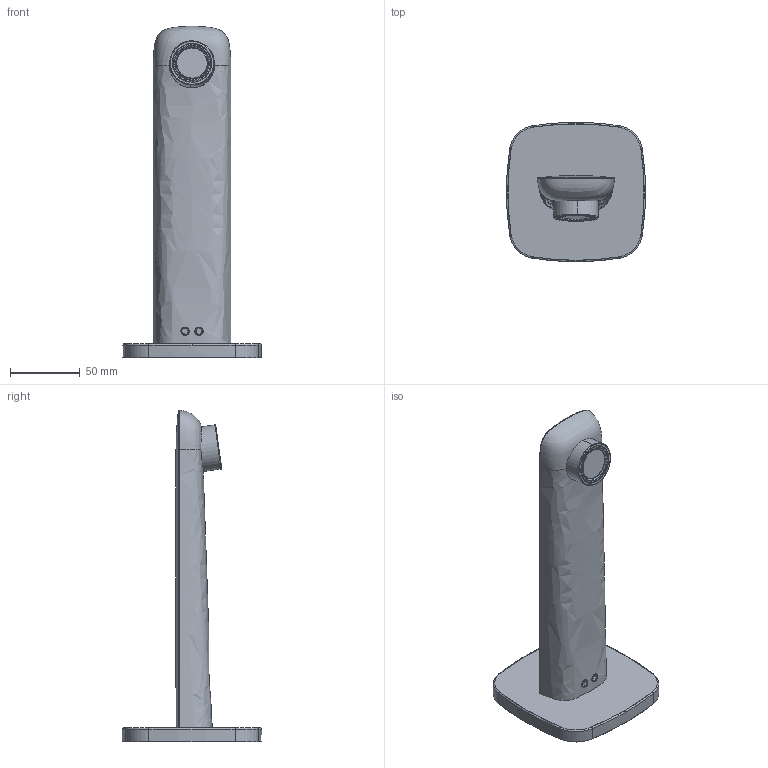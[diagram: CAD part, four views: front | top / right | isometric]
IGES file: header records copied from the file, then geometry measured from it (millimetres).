
Start section: SolidWorks IGES file using analytic representation for surfaces
Global section: file name: C:\Users\J1827277\Desktop\疏擘\FH Z23.IGS,1; native system: 5HSolidWorks 2013; preprocessor: SolidWorks 2013; author: J1827277; date: 130411.154058; units: millimetre
Bounding box: 100 x 100 x 237.91 mm (x, y, z)
Surface area: 56897.5 mm2 (no closed solid volume)
Topology: 0 solids, 0 shells, 79 faces, 1072 edges, 1072 vertices
Faces by surface type: bspline 42, revolution 37
